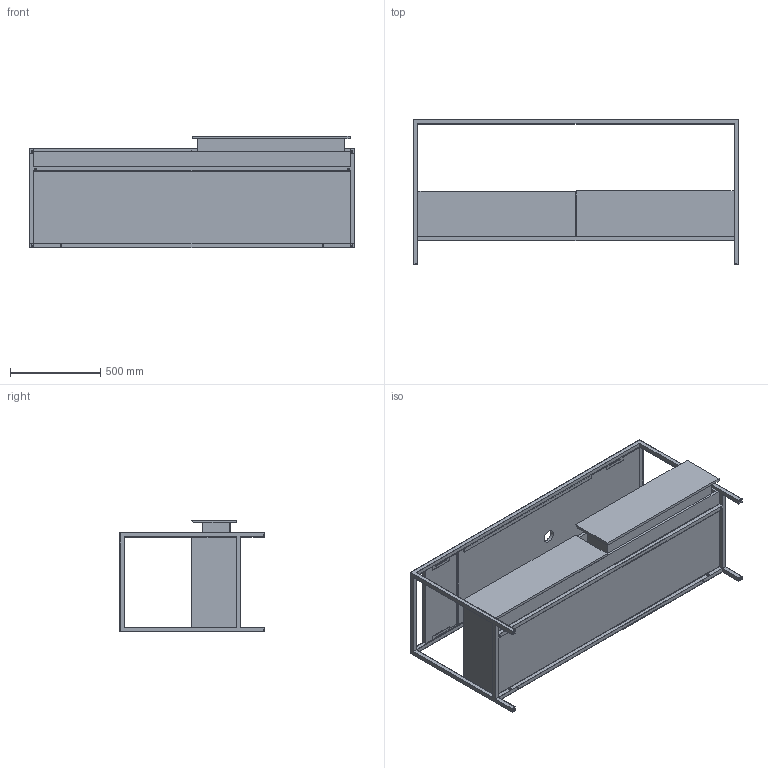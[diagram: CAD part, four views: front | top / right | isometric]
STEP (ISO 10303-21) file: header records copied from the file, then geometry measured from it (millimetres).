
FILE_DESCRIPTION (( 'STEP AP203' ), '1' );
FILE_NAME ('STA 180 02.STEP', '2019-02-04T14:25:38', ( '' ), ( '' ), 'SwSTEP 2.0', 'SolidWorks 2019', '' );
FILE_SCHEMA (( 'CONFIG_CONTROL_DESIGN' ));
Length unit declared in the file: millimetre
Products named in the file (7): CASSETTO 87,5; SCOCCA STAND 180; PIANETTO; STA 180 02; Ass CASSETTONE 180; struttura STAND180; PIANO MISURA 142 1f
Assembly tree (7 placements, depth 3):
  STA 180 02
    struttura STAND180
    PIANO MISURA 142 1f
    PIANETTO
    Ass CASSETTONE 180
      SCOCCA STAND 180
      CASSETTO 87,5  x2
Bounding box: 1800 x 800 x 619.96 mm (x, y, z)
Volume: 70425271.2 mm3; surface area: 13204474.3 mm2
Topology: 6 solids, 6 shells, 237 faces, 626 edges, 396 vertices
Faces by surface type: plane 175, cylinder 54, torus 8
Entity records: 7675 total; most frequent: CARTESIAN_POINT 1195, ORIENTED_EDGE 1180, DIRECTION 1172, EDGE_CURVE 590, VECTOR 474, LINE 474, VERTEX_POINT 372, AXIS2_PLACEMENT_3D 349
